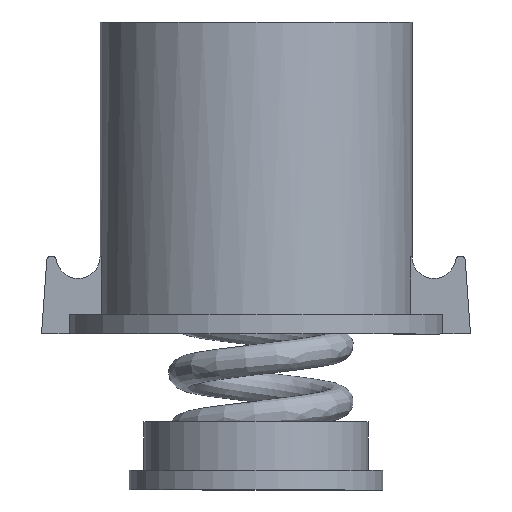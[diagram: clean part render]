
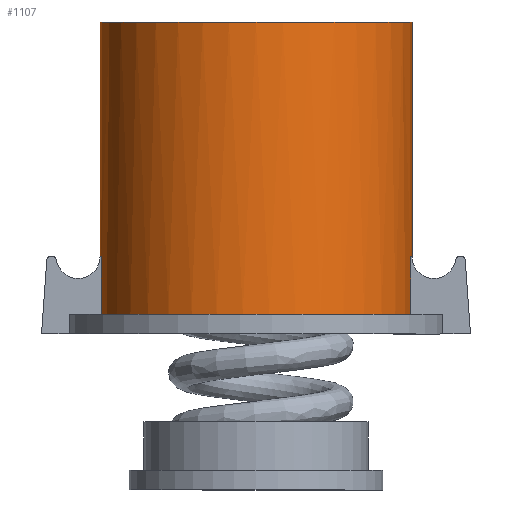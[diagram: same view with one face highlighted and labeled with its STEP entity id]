
A CAD part, front view. The second image highlights one B-rep face of the part: STEP entity #1107.
In plain terms, the highlighted cylindrical face has radius 50.8 mm (diameter 101.6 mm), a full revolution.
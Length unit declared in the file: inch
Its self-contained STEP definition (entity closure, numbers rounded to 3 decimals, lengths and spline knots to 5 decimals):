
#63=ELLIPSE('',#1184,2.00509,2.);
#64=ELLIPSE('',#1186,2.00509,2.);
#65=ELLIPSE('',#1197,2.00509,2.);
#66=ELLIPSE('',#1204,2.00509,2.);
#110=FACE_BOUND('',#258,.T.);
#177=FACE_OUTER_BOUND('',#257,.T.);
#257=EDGE_LOOP('',(#876,#877,#878,#879,#880,#881,#882,#883,#884,#885));
#258=EDGE_LOOP('',(#886));
#357=CIRCLE('',#1207,2.);
#361=CIRCLE('',#1214,2.);
#362=CIRCLE('',#1215,2.);
#412=LINE('',#1702,#474);
#425=LINE('',#1740,#487);
#427=LINE('',#1745,#489);
#440=LINE('',#1783,#502);
#474=VECTOR('',#1338,0.74118);
#487=VECTOR('',#1375,0.74118);
#489=VECTOR('',#1379,0.74118);
#502=VECTOR('',#1416,0.74118);
#539=VERTEX_POINT('',#1699);
#540=VERTEX_POINT('',#1701);
#545=VERTEX_POINT('',#1713);
#546=VERTEX_POINT('',#1714);
#553=VERTEX_POINT('',#1739);
#554=VERTEX_POINT('',#1743);
#555=VERTEX_POINT('',#1744);
#562=VERTEX_POINT('',#1760);
#563=VERTEX_POINT('',#1761);
#568=VERTEX_POINT('',#1782);
#571=VERTEX_POINT('',#1798);
#645=EDGE_CURVE('',#540,#539,#412,.T.);
#651=EDGE_CURVE('',#545,#546,#63,.T.);
#654=EDGE_CURVE('',#546,#540,#64,.T.);
#664=EDGE_CURVE('',#553,#545,#425,.T.);
#666=EDGE_CURVE('',#554,#555,#427,.T.);
#674=EDGE_CURVE('',#562,#563,#65,.T.);
#684=EDGE_CURVE('',#555,#562,#66,.T.);
#685=EDGE_CURVE('',#563,#568,#440,.T.);
#689=EDGE_CURVE('',#568,#553,#357,.T.);
#693=EDGE_CURVE('',#539,#554,#361,.T.);
#694=EDGE_CURVE('',#571,#571,#362,.T.);
#876=ORIENTED_EDGE('',*,*,#645,.T.);
#877=ORIENTED_EDGE('',*,*,#693,.T.);
#878=ORIENTED_EDGE('',*,*,#666,.T.);
#879=ORIENTED_EDGE('',*,*,#684,.T.);
#880=ORIENTED_EDGE('',*,*,#674,.T.);
#881=ORIENTED_EDGE('',*,*,#685,.T.);
#882=ORIENTED_EDGE('',*,*,#689,.T.);
#883=ORIENTED_EDGE('',*,*,#664,.T.);
#884=ORIENTED_EDGE('',*,*,#651,.T.);
#885=ORIENTED_EDGE('',*,*,#654,.T.);
#886=ORIENTED_EDGE('',*,*,#694,.F.);
#1069=CYLINDRICAL_SURFACE('',#1213,2.);
#1107=ADVANCED_FACE('',(#177,#110),#1069,.T.);
#1184=AXIS2_PLACEMENT_3D('',#1715,#1348,#1349);
#1186=AXIS2_PLACEMENT_3D('',#1720,#1354,#1355);
#1197=AXIS2_PLACEMENT_3D('',#1762,#1391,#1392);
#1204=AXIS2_PLACEMENT_3D('',#1780,#1412,#1413);
#1207=AXIS2_PLACEMENT_3D('',#1790,#1422,#1423);
#1213=AXIS2_PLACEMENT_3D('',#1796,#1434,#1435);
#1214=AXIS2_PLACEMENT_3D('',#1797,#1436,#1437);
#1215=AXIS2_PLACEMENT_3D('',#1799,#1438,#1439);
#1338=DIRECTION('',(0.,0.,-1.));
#1348=DIRECTION('center_axis',(-0.071,0.,
0.997));
#1349=DIRECTION('ref_axis',(0.997,0.,0.071));
#1354=DIRECTION('center_axis',(-0.071,0.,
0.997));
#1355=DIRECTION('ref_axis',(0.997,0.,0.071));
#1375=DIRECTION('',(0.,0.,1.));
#1379=DIRECTION('',(0.,0.,1.));
#1391=DIRECTION('center_axis',(0.071,0.,
0.997));
#1392=DIRECTION('ref_axis',(0.997,0.,-0.071));
#1412=DIRECTION('center_axis',(0.071,0.,
0.997));
#1413=DIRECTION('ref_axis',(0.997,0.,-0.071));
#1416=DIRECTION('',(0.,0.,-1.));
#1422=DIRECTION('center_axis',(0.,0.,
1.));
#1423=DIRECTION('ref_axis',(1.,0.,0.));
#1434=DIRECTION('center_axis',(0.,0.,
-1.));
#1435=DIRECTION('ref_axis',(1.,0.,0.));
#1436=DIRECTION('center_axis',(0.,0.,
1.));
#1437=DIRECTION('ref_axis',(1.,0.,0.));
#1438=DIRECTION('center_axis',(0.,0.,
1.));
#1439=DIRECTION('ref_axis',(1.,0.,0.));
#1699=CARTESIAN_POINT('',(1.98431,0.25,2.25));
#1701=CARTESIAN_POINT('',(1.98431,0.25,2.99118));
#1702=CARTESIAN_POINT('',(1.98431,0.25,6.));
#1713=CARTESIAN_POINT('',(1.98431,-0.25,2.99118));
#1714=CARTESIAN_POINT('',(2.,0.,2.9923));
#1715=CARTESIAN_POINT('Origin',(0.,0.,
2.84959));
#1720=CARTESIAN_POINT('Origin',(0.,0.,
2.84959));
#1739=CARTESIAN_POINT('',(1.98431,-0.25,2.25));
#1740=CARTESIAN_POINT('',(1.98431,-0.25,6.));
#1743=CARTESIAN_POINT('',(-1.98431,0.25,2.25));
#1744=CARTESIAN_POINT('',(-1.98431,0.25,2.99118));
#1745=CARTESIAN_POINT('',(-1.98431,0.25,6.));
#1760=CARTESIAN_POINT('',(-2.,0.,2.9923));
#1761=CARTESIAN_POINT('',(-1.98431,-0.25,2.99118));
#1762=CARTESIAN_POINT('Origin',(0.,0.,
2.84959));
#1780=CARTESIAN_POINT('Origin',(0.,0.,
2.84959));
#1782=CARTESIAN_POINT('',(-1.98431,-0.25,2.25));
#1783=CARTESIAN_POINT('',(-1.98431,-0.25,6.));
#1790=CARTESIAN_POINT('Origin',(0.,0.,
2.25));
#1796=CARTESIAN_POINT('Origin',(0.,0.,
6.));
#1797=CARTESIAN_POINT('Origin',(0.,0.,
2.25));
#1798=CARTESIAN_POINT('',(-2.,0.,6.));
#1799=CARTESIAN_POINT('Origin',(0.,0.,
6.));
